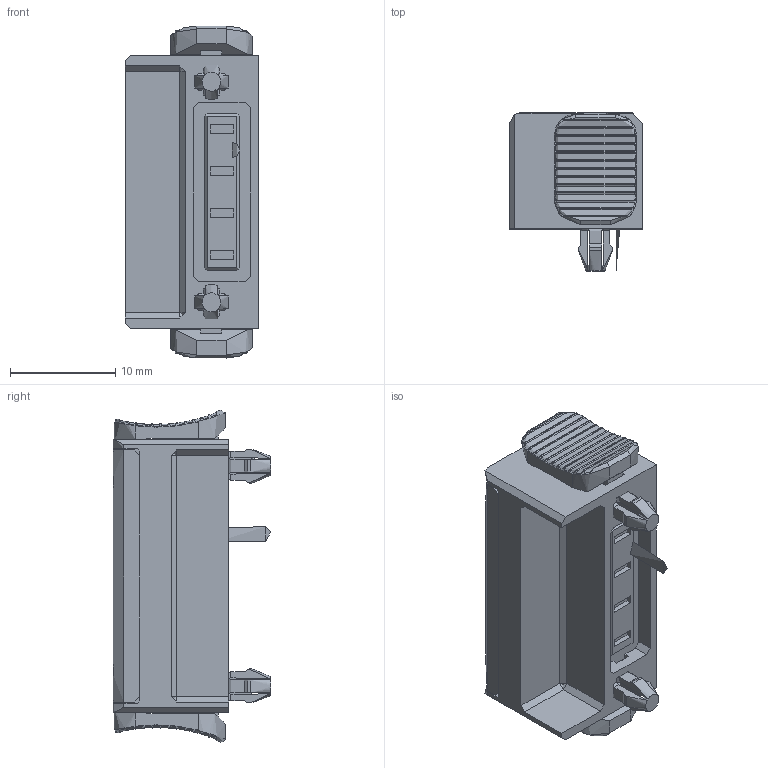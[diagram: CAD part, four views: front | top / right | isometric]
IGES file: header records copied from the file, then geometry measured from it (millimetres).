
Global section: file name: 21.04.212.113.1; native system: unknown; preprocessor: unknown; author: unknown; organization: unknown; date: 20221116.234043; units: millimetre
Bounding box: 12.7 x 15.02 x 31.62 mm (x, y, z)
Volume: 2989.5 mm3; surface area: 2540.9 mm2
Topology: 1 solids, 1 shells, 943 faces, 2653 edges, 1692 vertices
Faces by surface type: bspline 943
